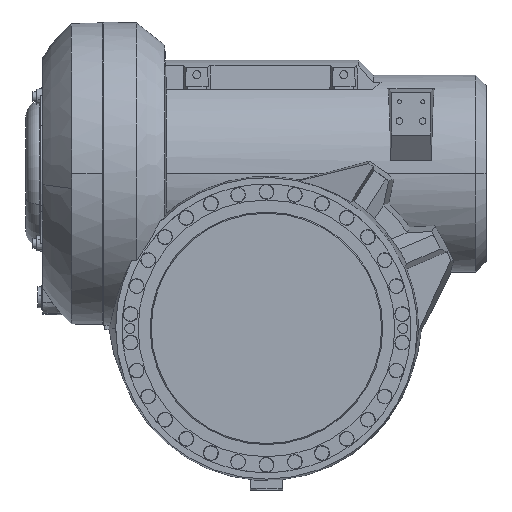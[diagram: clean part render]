
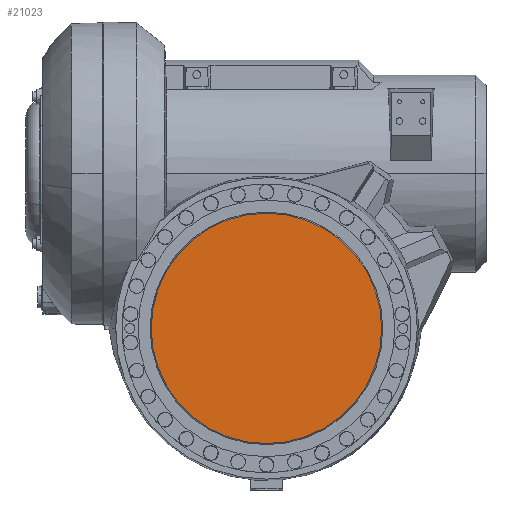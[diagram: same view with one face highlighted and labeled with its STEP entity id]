
A CAD part, front view. The second image highlights one B-rep face of the part: STEP entity #21023.
In plain terms, the highlighted planar face has unit normal (0, -1, 0).
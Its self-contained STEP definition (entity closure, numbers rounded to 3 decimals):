
#4132 = EDGE_CURVE ( 'NONE', #14930, #14504, #12599, .T. ) ;
#4558 = EDGE_CURVE ( 'NONE', #14504, #14930, #13209, .T. ) ;
#5021 = CARTESIAN_POINT ( 'NONE',  ( 350., -299.5, 1925. ) ) ;
#5022 = DIRECTION ( 'NONE',  ( 0., -1., 0. ) ) ;
#5023 = DIRECTION ( 'NONE',  ( 1., 0., 0. ) ) ;
#6449 = FACE_OUTER_BOUND ( 'NONE', #27660, .T. ) ;
#9040 = AXIS2_PLACEMENT_3D ( 'NONE', #5021, #5022, #5023 ) ;
#9117 = CARTESIAN_POINT ( 'NONE',  ( 201., -299.5, 1925. ) ) ;
#9291 = AXIS2_PLACEMENT_3D ( 'NONE', #32957, #32959, #32961 ) ;
#9734 = CARTESIAN_POINT ( 'NONE',  ( 499., -299.5, 1925. ) ) ;
#12599 = CIRCLE ( 'NONE', #9040, 149. ) ;
#13209 = CIRCLE ( 'NONE', #9291, 149. ) ;
#14504 = VERTEX_POINT ( 'NONE', #9117 ) ;
#14930 = VERTEX_POINT ( 'NONE', #9734 ) ;
#17326 = AXIS2_PLACEMENT_3D ( 'NONE', #23972, #23977, #23978 ) ;
#21023 = ADVANCED_FACE ( 'NONE', ( #6449 ), #23974, .F. ) ;
#21700 = ORIENTED_EDGE ( 'NONE', *, *, #4132, .T. ) ;
#21701 = ORIENTED_EDGE ( 'NONE', *, *, #4558, .T. ) ;
#23972 = CARTESIAN_POINT ( 'NONE',  ( 350., -299.5, 2074. ) ) ;
#23974 = PLANE ( 'NONE',  #17326 ) ;
#23977 = DIRECTION ( 'NONE',  ( 0., 1., 0. ) ) ;
#23978 = DIRECTION ( 'NONE',  ( -1., 0., 0. ) ) ;
#27660 = EDGE_LOOP ( 'NONE', ( #21700, #21701 ) ) ;
#32957 = CARTESIAN_POINT ( 'NONE',  ( 350., -299.5, 1925. ) ) ;
#32959 = DIRECTION ( 'NONE',  ( 0., -1., 0. ) ) ;
#32961 = DIRECTION ( 'NONE',  ( 1., 0., 0. ) ) ;
